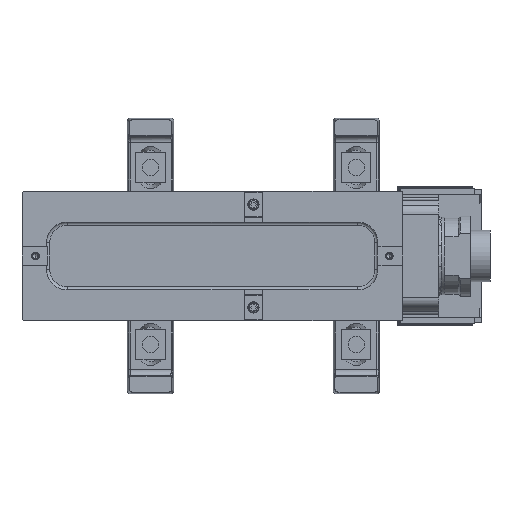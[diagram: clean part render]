
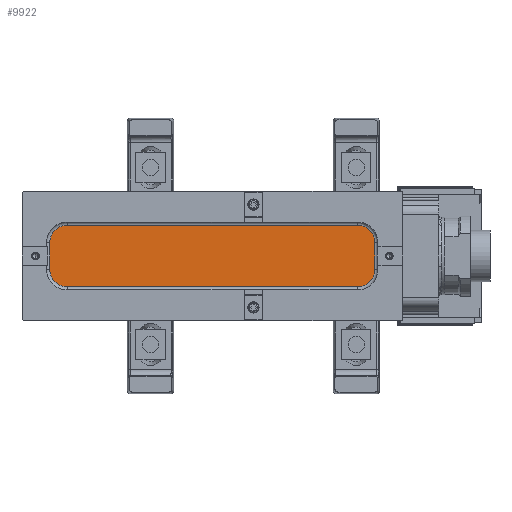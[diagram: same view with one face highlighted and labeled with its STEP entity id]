
A CAD part, front view. The second image highlights one B-rep face of the part: STEP entity #9922.
In plain terms, the highlighted planar face has unit normal (0, -1, 0).
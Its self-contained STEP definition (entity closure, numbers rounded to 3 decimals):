
#2120 = ORIENTED_EDGE ( 'NONE', *, *, #8878, .T. ) ;
#2684 = ORIENTED_EDGE ( 'NONE', *, *, #41779, .T. ) ;
#4219 = DIRECTION ( 'NONE',  ( 0., 0., -1. ) ) ;
#5290 = CARTESIAN_POINT ( 'NONE',  ( 118., -44., 0. ) ) ;
#5460 = CARTESIAN_POINT ( 'NONE',  ( -198., -44., 0. ) ) ;
#6749 = CARTESIAN_POINT ( 'NONE',  ( -181., -44., 30. ) ) ;
#8878 = EDGE_CURVE ( 'NONE', #64575, #58080, #46384, .T. ) ;
#9013 = CARTESIAN_POINT ( 'NONE',  ( 101., -44., 30. ) ) ;
#9922 = ADVANCED_FACE ( 'NONE', ( #42066 ), #42787, .T. ) ;
#10413 = DIRECTION ( 'NONE',  ( 0., -1., 0. ) ) ;
#10904 = EDGE_CURVE ( 'NONE', #37867, #11570, #29646, .T. ) ;
#11119 = CARTESIAN_POINT ( 'NONE',  ( 101., -44., -13. ) ) ;
#11570 = VERTEX_POINT ( 'NONE', #52131 ) ;
#11939 = VECTOR ( 'NONE', #62667, 1000. ) ;
#12127 = VERTEX_POINT ( 'NONE', #58424 ) ;
#14644 = LINE ( 'NONE', #15338, #45797 ) ;
#14836 = DIRECTION ( 'NONE',  ( 0., 0., 1. ) ) ;
#15153 = DIRECTION ( 'NONE',  ( 0., -1., 0. ) ) ;
#15338 = CARTESIAN_POINT ( 'NONE',  ( 0., -44., -30. ) ) ;
#17371 = ORIENTED_EDGE ( 'NONE', *, *, #10904, .T. ) ;
#18392 = LINE ( 'NONE', #40563, #11939 ) ;
#18646 = DIRECTION ( 'NONE',  ( 0., 0., -1. ) ) ;
#21054 = VERTEX_POINT ( 'NONE', #30046 ) ;
#22267 = CARTESIAN_POINT ( 'NONE',  ( 118., -44., 13. ) ) ;
#26316 = DIRECTION ( 'NONE',  ( 0., 0., -1. ) ) ;
#27660 = DIRECTION ( 'NONE',  ( 0., 0., -1. ) ) ;
#27855 = DIRECTION ( 'NONE',  ( 0., 0., -1. ) ) ;
#28928 = CARTESIAN_POINT ( 'NONE',  ( -198., -44., -13. ) ) ;
#29646 = CIRCLE ( 'NONE', #65638, 17. ) ;
#29658 = EDGE_CURVE ( 'NONE', #11570, #64575, #55102, .T. ) ;
#30046 = CARTESIAN_POINT ( 'NONE',  ( -198., -44., 13. ) ) ;
#31686 = DIRECTION ( 'NONE',  ( 1., 0., 0. ) ) ;
#31859 = CARTESIAN_POINT ( 'NONE',  ( 0., -44., 0. ) ) ;
#35489 = ORIENTED_EDGE ( 'NONE', *, *, #66471, .T. ) ;
#35634 = AXIS2_PLACEMENT_3D ( 'NONE', #60740, #54283, #26316 ) ;
#37790 = EDGE_CURVE ( 'NONE', #12127, #37867, #14644, .T. ) ;
#37867 = VERTEX_POINT ( 'NONE', #38564 ) ;
#38564 = CARTESIAN_POINT ( 'NONE',  ( 101., -44., -30. ) ) ;
#38926 = ORIENTED_EDGE ( 'NONE', *, *, #50953, .T. ) ;
#40563 = CARTESIAN_POINT ( 'NONE',  ( 0., -44., 30. ) ) ;
#41779 = EDGE_CURVE ( 'NONE', #68316, #21054, #66907, .T. ) ;
#41888 = CARTESIAN_POINT ( 'NONE',  ( 101., -44., 13. ) ) ;
#42066 = FACE_OUTER_BOUND ( 'NONE', #55780, .T. ) ;
#42787 = PLANE ( 'NONE',  #46942 ) ;
#43629 = CARTESIAN_POINT ( 'NONE',  ( -181., -44., -13. ) ) ;
#45797 = VECTOR ( 'NONE', #31686, 1000. ) ;
#46281 = VERTEX_POINT ( 'NONE', #28928 ) ;
#46384 = CIRCLE ( 'NONE', #67192, 17. ) ;
#46942 = AXIS2_PLACEMENT_3D ( 'NONE', #31859, #15153, #4219 ) ;
#47261 = EDGE_CURVE ( 'NONE', #58080, #68316, #18392, .T. ) ;
#49970 = ORIENTED_EDGE ( 'NONE', *, *, #47261, .T. ) ;
#50953 = EDGE_CURVE ( 'NONE', #46281, #12127, #58884, .T. ) ;
#51440 = ORIENTED_EDGE ( 'NONE', *, *, #37790, .T. ) ;
#52131 = CARTESIAN_POINT ( 'NONE',  ( 118., -44., -13. ) ) ;
#54283 = DIRECTION ( 'NONE',  ( 0., -1., 0. ) ) ;
#55102 = LINE ( 'NONE', #5290, #65820 ) ;
#55264 = LINE ( 'NONE', #5460, #59363 ) ;
#55780 = EDGE_LOOP ( 'NONE', ( #2120, #49970, #2684, #35489, #38926, #51440, #17371, #68700 ) ) ;
#58080 = VERTEX_POINT ( 'NONE', #9013 ) ;
#58424 = CARTESIAN_POINT ( 'NONE',  ( -181., -44., -30. ) ) ;
#58884 = CIRCLE ( 'NONE', #61198, 17. ) ;
#59363 = VECTOR ( 'NONE', #27660, 1000. ) ;
#60309 = DIRECTION ( 'NONE',  ( 0., 0., -1. ) ) ;
#60740 = CARTESIAN_POINT ( 'NONE',  ( -181., -44., 13. ) ) ;
#61198 = AXIS2_PLACEMENT_3D ( 'NONE', #43629, #65770, #60309 ) ;
#62667 = DIRECTION ( 'NONE',  ( -1., 0., 0. ) ) ;
#63982 = DIRECTION ( 'NONE',  ( 0., -1., 0. ) ) ;
#64575 = VERTEX_POINT ( 'NONE', #22267 ) ;
#65638 = AXIS2_PLACEMENT_3D ( 'NONE', #11119, #10413, #27855 ) ;
#65770 = DIRECTION ( 'NONE',  ( 0., -1., 0. ) ) ;
#65820 = VECTOR ( 'NONE', #14836, 1000. ) ;
#66471 = EDGE_CURVE ( 'NONE', #21054, #46281, #55264, .T. ) ;
#66907 = CIRCLE ( 'NONE', #35634, 17. ) ;
#67192 = AXIS2_PLACEMENT_3D ( 'NONE', #41888, #63982, #18646 ) ;
#68316 = VERTEX_POINT ( 'NONE', #6749 ) ;
#68700 = ORIENTED_EDGE ( 'NONE', *, *, #29658, .T. ) ;
